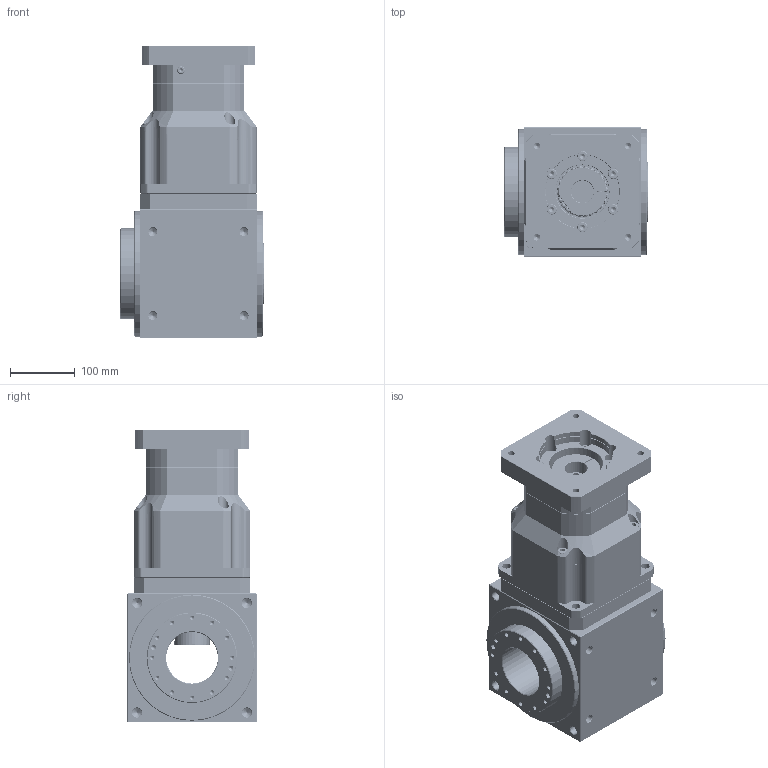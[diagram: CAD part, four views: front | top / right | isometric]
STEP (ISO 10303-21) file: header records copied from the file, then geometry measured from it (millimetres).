
FILE_DESCRIPTION (( 'STEP AP214' ), '1' );
FILE_NAME ('AAW200AS-L2-RF 35-114.3-200-M12.STEP', '2021-04-24T05:28:00', ( 'Microsoft' ), ( 'Microsoft China' ), 'SwSTEP 2.0', 'SolidWorks 2016', '' );
FILE_SCHEMA (( 'AUTOMOTIVE_DESIGN' ));
Length unit declared in the file: millimetre
Products named in the file (39): 粣創揤啣105; 蚐猾75X130X12; Circlips for hole--Type B GB_GB_CONNECTING_PIECE_RINGS_CHB 80; Deep groove ball bearings GB_Rolling bearings 61826 GB 276-94; 俴陎謫8; 怀堤粣5B; 幗渀粣創13.513X18.513; Deep groove ball bearings GB_Rolling bearings 6215 GB 276-94; 俴陎謫菜え13.6X27; 齿圈Z108; 俴陎粣13.513; 媼撰笢潔楊擘; AAW200AS-L2-RF--22-110-145-M8; AAW200AS-L2-RF 35-114.3-200-M12; 萇儂楊擘D114.3M12; Hex socket set screws with flat point GB_GB_FASTENER_SCREWS_HSFP M12X16-N; 俴陎殤5B-30; 薊粣ん菜え35; Deep groove ball bearings GB_Rolling bearings 61821 GB 276-94; Hexagon socket head cap screws GB_GB_FASTENER_SCREWS_HSHCS M10X30-N; 二级齿圈Z108; Hexagon socket countersunk head screws GB_GB_FASTENER_SCREWS_HSCHS M6X16-N; Spring lock washers--Normal type GB_GB_FASTENER_WASHER_SW 10; Spring lock washers--Normal type GB_GB_FASTENER_WASHER_SW 8; Plain parallel keys_GB_CONNECTING_PIECE_KEYS_CSK C8X22; Hexagon socket head cap screws GB_GB_FASTENER_SCREWS_HSHCS M8X35-N; Circlips for hole--Type B GB_GB_CONNECTING_PIECE_RINGS_CHB 110; Hexagon socket head cap screws GB_GB_FASTENER_SCREWS_HSHCS M10X35-N; Circlips for holes--Type A GB_GB_CONNECTING_PIECE_RING_RRH 130; Plain parallel keys_GB_CONNECTING_PIECE_KEYS_CSK C4X18; 怮栠謫5B; Circlips for shaft--Type A large GB_GB_CONNECTING_PIECE_RING_RRA 55; 俴陎謫5B; 怮栠謫8; 俴陎謫菜え15.4X28; 薊粣ん35K12; 幗渀粣創15.259X21.259; Deep groove ball bearings GB_Rolling bearings 6011 GB 276-94; 俴陎粣15.259
Assembly tree (91 placements, depth 2):
  AAW200AS-L2-RF 35-114.3-200-M12
    齿圈Z108
    Deep groove ball bearings GB_Rolling bearings 6215 GB 276-94
    怀堤粣5B
    Deep groove ball bearings GB_Rolling bearings 61826 GB 276-94
    蚐猾75X130X12
    俴陎粣15.259  x3
    幗渀粣創15.259X21.259  x4
    俴陎謫菜え15.4X28  x6
    俴陎謫5B  x3
    怮栠謫5B
    Circlips for holes--Type A GB_GB_CONNECTING_PIECE_RING_RRH 130
    Circlips for hole--Type B GB_GB_CONNECTING_PIECE_RINGS_CHB 110
    Plain parallel keys_GB_CONNECTING_PIECE_KEYS_CSK C8X22
    Spring lock washers--Normal type GB_GB_FASTENER_WASHER_SW 10  x10
    二级齿圈Z108
    Deep groove ball bearings GB_Rolling bearings 61821 GB 276-94
    俴陎殤5B-30
    萇儂楊擘D114.3M12
    媼撰笢潔楊擘
    俴陎粣13.513  x3
    俴陎謫菜え13.6X27  x6
    幗渀粣創13.513X18.513  x3
    俴陎謫8  x3
    Circlips for hole--Type B GB_GB_CONNECTING_PIECE_RINGS_CHB 80
    粣創揤啣105
    Deep groove ball bearings GB_Rolling bearings 6011 GB 276-94
    薊粣ん35K12
    怮栠謫8
    Circlips for shaft--Type A large GB_GB_CONNECTING_PIECE_RING_RRA 55
    Plain parallel keys_GB_CONNECTING_PIECE_KEYS_CSK C4X18
    Hexagon socket head cap screws GB_GB_FASTENER_SCREWS_HSHCS M10X35-N  x10
    Hexagon socket head cap screws GB_GB_FASTENER_SCREWS_HSHCS M8X35-N  x4
    Spring lock washers--Normal type GB_GB_FASTENER_WASHER_SW 8  x4
    Hexagon socket countersunk head screws GB_GB_FASTENER_SCREWS_HSCHS M6X16-N  x6
    Hexagon socket head cap screws GB_GB_FASTENER_SCREWS_HSHCS M10X30-N
    薊粣ん菜え35
    Hex socket set screws with flat point GB_GB_FASTENER_SCREWS_HSFP M12X16-N  x2
    AAW200AS-L2-RF--22-110-145-M8
Bounding box: 223 x 200 x 453 mm (x, y, z)
Volume: 12925525 mm3; surface area: 1377847.1 mm2
Topology: 91 solids, 92 shells, 3191 faces, 9583 edges, 5959 vertices
Faces by surface type: cylinder 992, bspline 874, plane 788, cone 477, torus 60
Entity records: 137510 total; most frequent: CARTESIAN_POINT 48576, ORIENTED_EDGE 14750, DIRECTION 10785, EDGE_CURVE 7375, VERTEX_POINT 4859, AXIS2_PLACEMENT_3D 4559, CIRCLE 2848, EDGE_LOOP 2708
